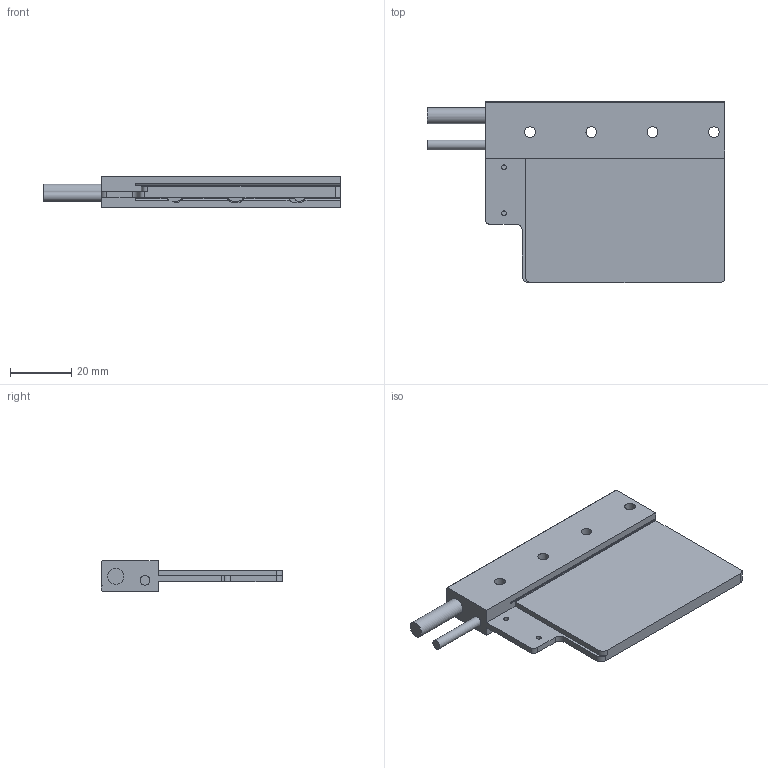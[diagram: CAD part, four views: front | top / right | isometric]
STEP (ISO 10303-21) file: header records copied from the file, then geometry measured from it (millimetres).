
FILE_DESCRIPTION( ( '-' ), '1' );
FILE_NAME( 'C:/Users/peikelboom/Desktop/STEP Files/Ironless/UM/Coilunit UM 3_160607.stp', '20-04-2016', ( 'P.Eikelboom' ), ( 'Technotion' ), 'PSStep 16.0.42', '-', ' ' );
FILE_SCHEMA( ( 'AUTOMOTIVE_DESIGN { 1 0 10303 214 1 1 1 1 }' ) );
Length unit declared in the file: millimetre
Products named in the file (1): 4022 363 60461
Bounding box: 97 x 59.1 x 10 mm (x, y, z)
Surface area: 12472.8 mm2 (no closed solid volume)
Topology: 0 solids, 96 shells, 96 faces, 505 edges, 493 vertices
Faces by surface type: plane 52, cylinder 42, cone 2
Full cylindrical faces by diameter (mm): 1.6 x2, 3.2 x2, 3.5 x4, 5.3 x1, 5.6 x1
Entity records: 5762 total; most frequent: CARTESIAN_POINT 1181, DIRECTION 828, ORIENTED_EDGE 488, EDGE_CURVE 488, VERTEX_POINT 488, LINE 318, VECTOR 318, AXIS2_PLACEMENT_3D 255
